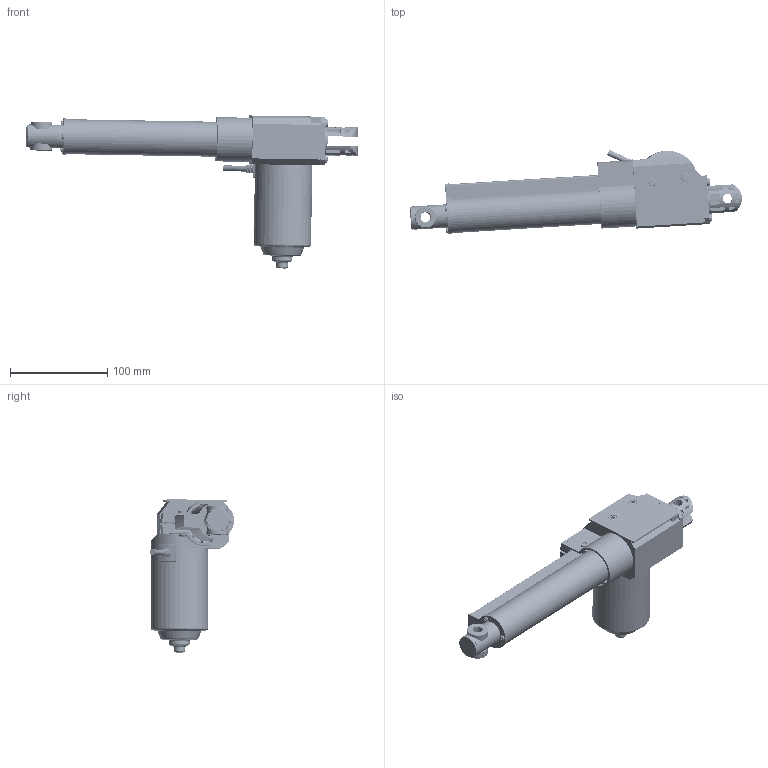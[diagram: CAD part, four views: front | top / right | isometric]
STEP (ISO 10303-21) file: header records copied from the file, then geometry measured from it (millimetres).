
FILE_DESCRIPTION((''),'2;1');
FILE_NAME('MK60-2_ASM','2025-12-04T',('USER'),(''),'PRO/ENGINEER BY PARAMETRIC TECHNOLOGY CORPORATION, 2008090','PRO/ENGINEER BY PARAMETRIC TECHNOLOGY CORPORATION, 2008090','');
FILE_SCHEMA(('CONFIG_CONTROL_DESIGN'));
Length unit declared in the file: millimetre
Products named in the file (3): MK60-TUIGANBUFEN_STP; MK60-ZHIGANBUFEN_STP; MK60-2_ASM
Assembly tree (2 placements, depth 2):
  MK60-2_ASM
    MK60-TUIGANBUFEN_STP
    MK60-ZHIGANBUFEN_STP
Bounding box: 341.29 x 86.6 x 157.37 mm (x, y, z)
Surface area: 231579.4 mm2
Topology: 10 solids, 27 shells, 2500 faces, 10342 edges, 7677 vertices
Faces by surface type: cylinder 1147, plane 847, bspline 320, torus 99, cone 81, sphere 4, extrusion 2
Entity records: 216305 total; most frequent: CARTESIAN_POINT 143496, ORIENTED_EDGE 16816, DIRECTION 10491, EDGE_CURVE 10320, VERTEX_POINT 7677, B_SPLINE_CURVE_WITH_KNOTS 5673, AXIS2_PLACEMENT_3D 3655, VECTOR 3181
